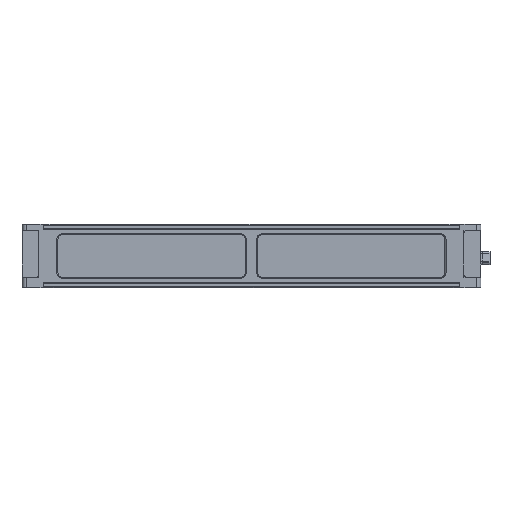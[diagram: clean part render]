
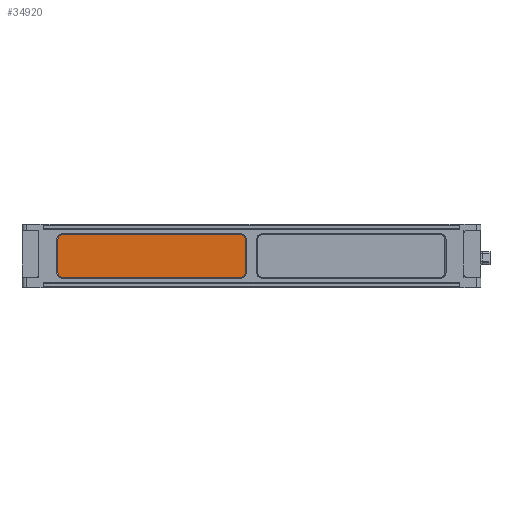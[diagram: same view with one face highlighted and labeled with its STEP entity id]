
A CAD part, front view. The second image highlights one B-rep face of the part: STEP entity #34920.
In plain terms, the highlighted planar face has unit normal (0, -1, 0).
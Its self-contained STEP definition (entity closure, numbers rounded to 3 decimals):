
#122 = ORIENTED_EDGE ( 'NONE', *, *, #20960, .T. ) ;
#255 = VERTEX_POINT ( 'NONE', #38674 ) ;
#472 = EDGE_CURVE ( 'NONE', #34139, #54895, #46119, .T. ) ;
#630 = CARTESIAN_POINT ( 'NONE',  ( -38.991, -70.341, 225. ) ) ;
#787 = DIRECTION ( 'NONE',  ( 0., -1., 0. ) ) ;
#2524 = VECTOR ( 'NONE', #51751, 1000. ) ;
#2670 = DIRECTION ( 'NONE',  ( 0., 0., -1. ) ) ;
#4467 = AXIS2_PLACEMENT_3D ( 'NONE', #37731, #787, #15066 ) ;
#5452 = CARTESIAN_POINT ( 'NONE',  ( -40.991, -70.341, 225. ) ) ;
#5494 = VERTEX_POINT ( 'NONE', #35552 ) ;
#6355 = AXIS2_PLACEMENT_3D ( 'NONE', #30255, #20343, #2670 ) ;
#6381 = EDGE_CURVE ( 'NONE', #5494, #255, #25061, .T. ) ;
#7504 = DIRECTION ( 'NONE',  ( 0., 0., -1. ) ) ;
#10116 = VECTOR ( 'NONE', #57685, 1000. ) ;
#10684 = DIRECTION ( 'NONE',  ( 0., -1., 0. ) ) ;
#11384 = CARTESIAN_POINT ( 'NONE',  ( -127.491, -70.341, 207. ) ) ;
#15066 = DIRECTION ( 'NONE',  ( 0., 0., -1. ) ) ;
#17613 = VECTOR ( 'NONE', #57117, 1000. ) ;
#18691 = CARTESIAN_POINT ( 'NONE',  ( -125.491, -70.341, 227. ) ) ;
#18862 = CARTESIAN_POINT ( 'NONE',  ( -40.991, -70.341, 227. ) ) ;
#19416 = CARTESIAN_POINT ( 'NONE',  ( -125.491, -70.341, 209. ) ) ;
#19996 = CARTESIAN_POINT ( 'NONE',  ( -40.991, -70.341, 207. ) ) ;
#20343 = DIRECTION ( 'NONE',  ( 0., -1., 0. ) ) ;
#20619 = ORIENTED_EDGE ( 'NONE', *, *, #45877, .T. ) ;
#20960 = EDGE_CURVE ( 'NONE', #43184, #26795, #31563, .T. ) ;
#20992 = LINE ( 'NONE', #47784, #2524 ) ;
#22440 = EDGE_CURVE ( 'NONE', #54895, #24659, #52736, .T. ) ;
#24589 = DIRECTION ( 'NONE',  ( 0., 0., -1. ) ) ;
#24659 = VERTEX_POINT ( 'NONE', #47188 ) ;
#25061 = LINE ( 'NONE', #35004, #10116 ) ;
#25213 = DIRECTION ( 'NONE',  ( 0., -1., 0. ) ) ;
#25369 = VECTOR ( 'NONE', #54665, 1000. ) ;
#25597 = PLANE ( 'NONE',  #48805 ) ;
#26795 = VERTEX_POINT ( 'NONE', #18862 ) ;
#29766 = EDGE_CURVE ( 'NONE', #255, #34139, #32437, .T. ) ;
#30255 = CARTESIAN_POINT ( 'NONE',  ( -40.991, -70.341, 209. ) ) ;
#31563 = CIRCLE ( 'NONE', #40604, 2. ) ;
#32437 = CIRCLE ( 'NONE', #54786, 2. ) ;
#34139 = VERTEX_POINT ( 'NONE', #44640 ) ;
#34920 = ADVANCED_FACE ( 'NONE', ( #57508 ), #25597, .T. ) ;
#35004 = CARTESIAN_POINT ( 'NONE',  ( -127.491, -70.341, 227. ) ) ;
#35350 = LINE ( 'NONE', #50104, #25369 ) ;
#35387 = CIRCLE ( 'NONE', #4467, 2. ) ;
#35552 = CARTESIAN_POINT ( 'NONE',  ( -127.491, -70.341, 225. ) ) ;
#37145 = ORIENTED_EDGE ( 'NONE', *, *, #22440, .T. ) ;
#37455 = DIRECTION ( 'NONE',  ( 0., 0., -1. ) ) ;
#37731 = CARTESIAN_POINT ( 'NONE',  ( -125.491, -70.341, 225. ) ) ;
#37902 = ORIENTED_EDGE ( 'NONE', *, *, #29766, .T. ) ;
#38674 = CARTESIAN_POINT ( 'NONE',  ( -127.491, -70.341, 209. ) ) ;
#40604 = AXIS2_PLACEMENT_3D ( 'NONE', #5452, #55751, #37455 ) ;
#41403 = EDGE_CURVE ( 'NONE', #45493, #5494, #35387, .T. ) ;
#43184 = VERTEX_POINT ( 'NONE', #630 ) ;
#44640 = CARTESIAN_POINT ( 'NONE',  ( -125.491, -70.341, 207. ) ) ;
#45493 = VERTEX_POINT ( 'NONE', #18691 ) ;
#45859 = ORIENTED_EDGE ( 'NONE', *, *, #55430, .T. ) ;
#45877 = EDGE_CURVE ( 'NONE', #24659, #43184, #35350, .T. ) ;
#46119 = LINE ( 'NONE', #11384, #17613 ) ;
#47188 = CARTESIAN_POINT ( 'NONE',  ( -38.991, -70.341, 209. ) ) ;
#47784 = CARTESIAN_POINT ( 'NONE',  ( -127.491, -70.341, 227. ) ) ;
#48805 = AXIS2_PLACEMENT_3D ( 'NONE', #53051, #25213, #7504 ) ;
#50104 = CARTESIAN_POINT ( 'NONE',  ( -38.991, -70.341, 227. ) ) ;
#51053 = ORIENTED_EDGE ( 'NONE', *, *, #472, .T. ) ;
#51600 = EDGE_LOOP ( 'NONE', ( #20619, #122, #45859, #55171, #57488, #37902, #51053, #37145 ) ) ;
#51751 = DIRECTION ( 'NONE',  ( -1., 0., 0. ) ) ;
#52736 = CIRCLE ( 'NONE', #6355, 2. ) ;
#53051 = CARTESIAN_POINT ( 'NONE',  ( -144.491, -70.341, 202. ) ) ;
#54665 = DIRECTION ( 'NONE',  ( 0., 0., 1. ) ) ;
#54786 = AXIS2_PLACEMENT_3D ( 'NONE', #19416, #10684, #24589 ) ;
#54895 = VERTEX_POINT ( 'NONE', #19996 ) ;
#55171 = ORIENTED_EDGE ( 'NONE', *, *, #41403, .T. ) ;
#55430 = EDGE_CURVE ( 'NONE', #26795, #45493, #20992, .T. ) ;
#55751 = DIRECTION ( 'NONE',  ( 0., -1., 0. ) ) ;
#57117 = DIRECTION ( 'NONE',  ( 1., 0., 0. ) ) ;
#57488 = ORIENTED_EDGE ( 'NONE', *, *, #6381, .T. ) ;
#57508 = FACE_OUTER_BOUND ( 'NONE', #51600, .T. ) ;
#57685 = DIRECTION ( 'NONE',  ( 0., 0., -1. ) ) ;
